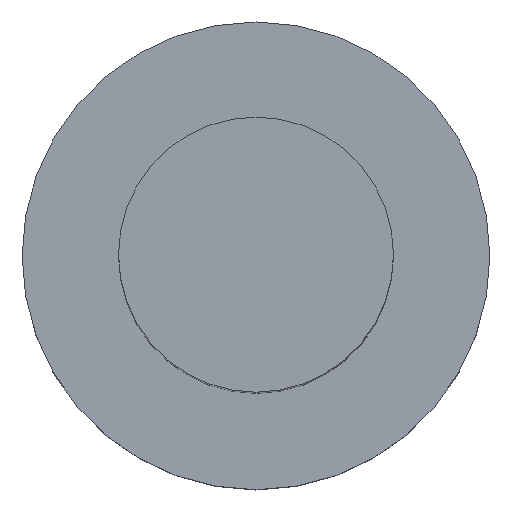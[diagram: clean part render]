
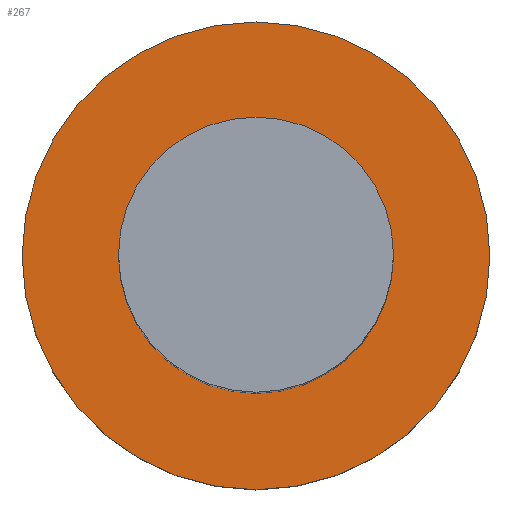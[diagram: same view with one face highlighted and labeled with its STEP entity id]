
A CAD part, top view. The second image highlights one B-rep face of the part: STEP entity #267.
In plain terms, the highlighted planar face has unit normal (0, 0, 1).
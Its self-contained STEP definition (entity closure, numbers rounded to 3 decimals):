
#24 = VERTEX_POINT('',#25);
#25 = CARTESIAN_POINT('',(5.4,0.,-11.375));
#32 = CYLINDRICAL_SURFACE('',#33,5.4);
#33 = AXIS2_PLACEMENT_3D('',#34,#35,#36);
#34 = CARTESIAN_POINT('',(0.,0.,-14.575));
#35 = DIRECTION('',(-0.,-0.,-1.));
#36 = DIRECTION('',(1.,0.,0.));
#51 = EDGE_CURVE('',#24,#24,#52,.T.);
#52 = SURFACE_CURVE('',#53,(#58,#65),.PCURVE_S1.);
#53 = CIRCLE('',#54,5.4);
#54 = AXIS2_PLACEMENT_3D('',#55,#56,#57);
#55 = CARTESIAN_POINT('',(0.,0.,-11.375));
#56 = DIRECTION('',(0.,0.,1.));
#57 = DIRECTION('',(1.,0.,0.));
#58 = PCURVE('',#32,#59);
#59 = DEFINITIONAL_REPRESENTATION('',(#60),#64);
#60 = LINE('',#61,#62);
#61 = CARTESIAN_POINT('',(-0.,-3.2));
#62 = VECTOR('',#63,1.);
#63 = DIRECTION('',(-1.,0.));
#64 = ( GEOMETRIC_REPRESENTATION_CONTEXT(2) 
PARAMETRIC_REPRESENTATION_CONTEXT() REPRESENTATION_CONTEXT('2D SPACE',''
  ) );
#65 = PCURVE('',#66,#71);
#66 = PLANE('',#67);
#67 = AXIS2_PLACEMENT_3D('',#68,#69,#70);
#68 = CARTESIAN_POINT('',(0.,0.,-11.375)
  );
#69 = DIRECTION('',(0.,0.,1.));
#70 = DIRECTION('',(1.,0.,-0.));
#71 = DEFINITIONAL_REPRESENTATION('',(#72),#76);
#72 = CIRCLE('',#73,5.4);
#73 = AXIS2_PLACEMENT_2D('',#74,#75);
#74 = CARTESIAN_POINT('',(0.,0.));
#75 = DIRECTION('',(1.,0.));
#76 = ( GEOMETRIC_REPRESENTATION_CONTEXT(2) 
PARAMETRIC_REPRESENTATION_CONTEXT() REPRESENTATION_CONTEXT('2D SPACE',''
  ) );
#267 = ADVANCED_FACE('',(#268,#271),#66,.T.);
#268 = FACE_BOUND('',#269,.T.);
#269 = EDGE_LOOP('',(#270));
#270 = ORIENTED_EDGE('',*,*,#51,.T.);
#271 = FACE_BOUND('',#272,.T.);
#272 = EDGE_LOOP('',(#273));
#273 = ORIENTED_EDGE('',*,*,#274,.F.);
#274 = EDGE_CURVE('',#275,#275,#277,.T.);
#275 = VERTEX_POINT('',#276);
#276 = CARTESIAN_POINT('',(3.175,0.,-11.375));
#277 = SURFACE_CURVE('',#278,(#283,#290),.PCURVE_S1.);
#278 = CIRCLE('',#279,3.175);
#279 = AXIS2_PLACEMENT_3D('',#280,#281,#282);
#280 = CARTESIAN_POINT('',(0.,0.,-11.375));
#281 = DIRECTION('',(0.,0.,1.));
#282 = DIRECTION('',(1.,0.,0.));
#283 = PCURVE('',#66,#284);
#284 = DEFINITIONAL_REPRESENTATION('',(#285),#289);
#285 = CIRCLE('',#286,3.175);
#286 = AXIS2_PLACEMENT_2D('',#287,#288);
#287 = CARTESIAN_POINT('',(0.,0.));
#288 = DIRECTION('',(1.,0.));
#289 = ( GEOMETRIC_REPRESENTATION_CONTEXT(2) 
PARAMETRIC_REPRESENTATION_CONTEXT() REPRESENTATION_CONTEXT('2D SPACE',''
  ) );
#290 = PCURVE('',#291,#296);
#291 = CYLINDRICAL_SURFACE('',#292,3.175);
#292 = AXIS2_PLACEMENT_3D('',#293,#294,#295);
#293 = CARTESIAN_POINT('',(0.,0.,-11.375));
#294 = DIRECTION('',(-0.,-0.,-1.));
#295 = DIRECTION('',(1.,0.,0.));
#296 = DEFINITIONAL_REPRESENTATION('',(#297),#301);
#297 = LINE('',#298,#299);
#298 = CARTESIAN_POINT('',(-0.,0.));
#299 = VECTOR('',#300,1.);
#300 = DIRECTION('',(-1.,0.));
#301 = ( GEOMETRIC_REPRESENTATION_CONTEXT(2) 
PARAMETRIC_REPRESENTATION_CONTEXT() REPRESENTATION_CONTEXT('2D SPACE',''
  ) );
